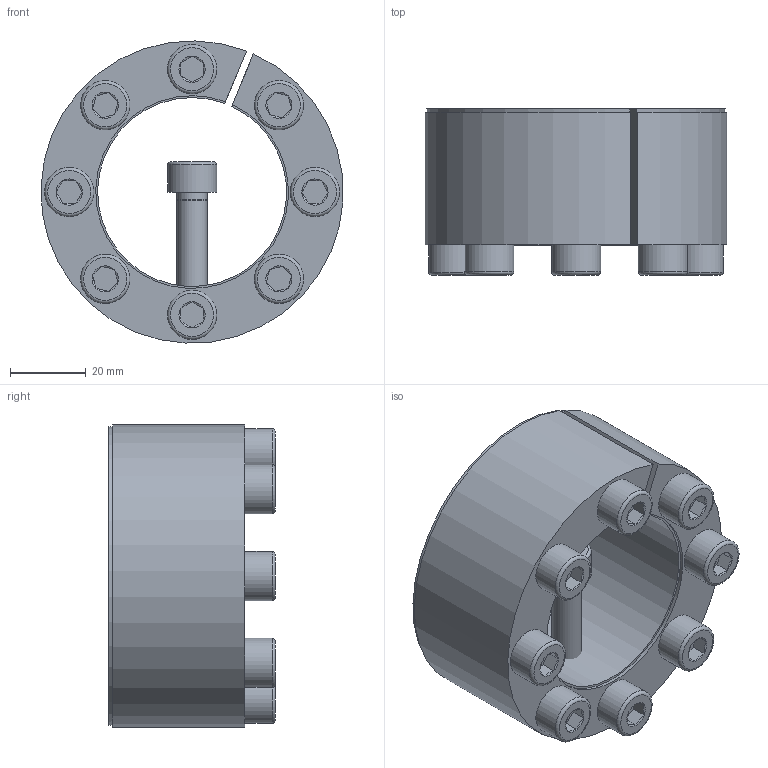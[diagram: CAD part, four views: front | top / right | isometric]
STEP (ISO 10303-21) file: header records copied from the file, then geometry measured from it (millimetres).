
FILE_DESCRIPTION( ( 'Unknown' ), '1' );
FILE_NAME( 'C:/Dokumente und Einstellungen/Sven/Desktop/homepage/cad - homepage/KBS61/KBS 61 - 50 x 80.stp', 'Unknown', ( 'Unknown' ), ( 'Unknown' ), 'XStep 1.0', 'Unknown', ' ' );
FILE_SCHEMA( ( 'automotive_design' ) );
Length unit declared in the file: millimetre
Products named in the file (3): Assem1; KBS 61 - 50 x 80; ISO 4762 M8x35
Bounding box: 79.91 x 44 x 79.95 mm (x, y, z)
Volume: 213158.9 mm3; surface area: 70344.9 mm2
Topology: 11 solids, 11 shells, 261 faces, 499 edges, 296 vertices
Faces by surface type: plane 120, cone 67, cylinder 56, torus 18
Full cylindrical faces by diameter (mm): 7 x9, 8 x34, 13 x9
Entity records: 1434 total; most frequent: CARTESIAN_POINT 241, DIRECTION 212, ORIENTED_EDGE 150, AXIS2_PLACEMENT_3D 94, EDGE_LOOP 78, EDGE_CURVE 75, FACE_OUTER_BOUND 57, VERTEX_POINT 55
